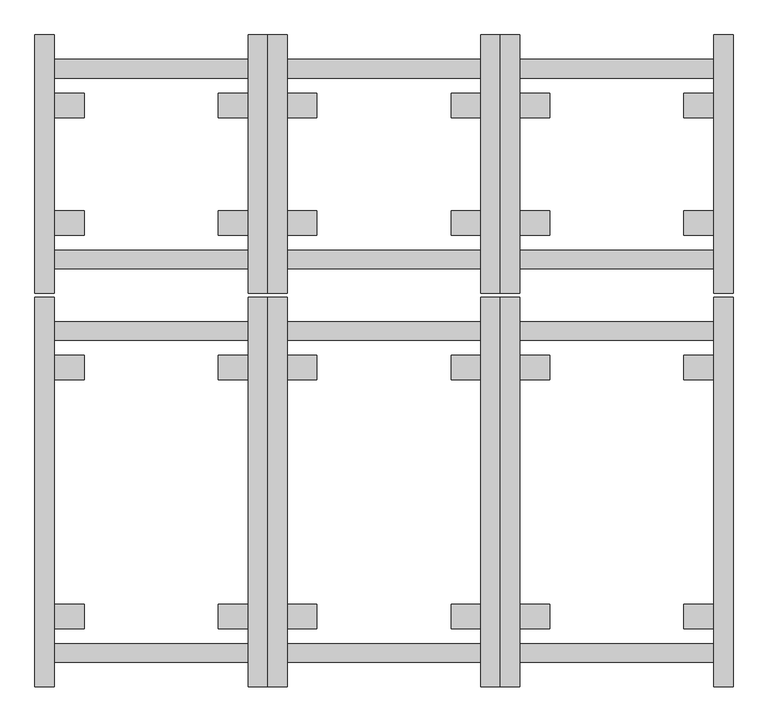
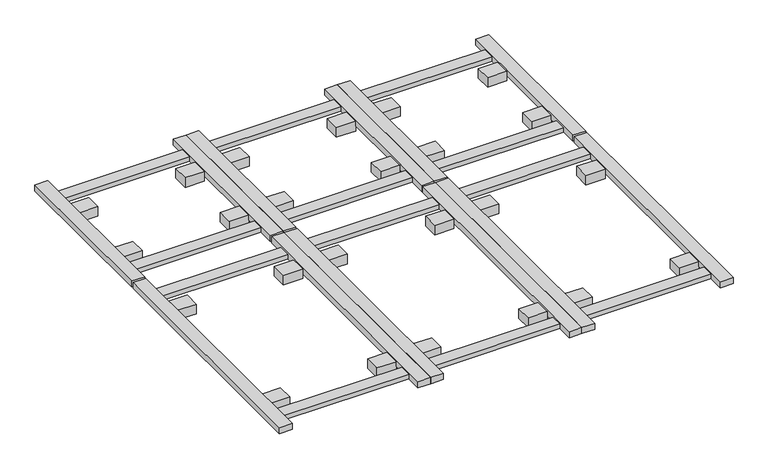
"""IFC4 building model written with IfcOpenShell, lengths in millimetres: proxy geometry, Video_Wall_Mount-Chief-TIL_Series-LG_Leyard : Video Wall for LG and Leyard."""

from ifc_helpers import new_model, si_unit, frame, origin, origin_with_axes, place, context, project, spatial, polyline, outline, extrude, source, transform, mapped, element, save


def specialty_equipment_51c90836(model_context):
    return source(origin(), model_context, "Body", "SweptSolid", [
        extrude(outline(polyline([(429.768, 14.478), (429.768, -49.022), (352.806, -49.022), (352.806, 14.478), (429.768, 14.478)])), origin_with_axes(), (0.0, 0.0, 1.0), 40.386),
        extrude(outline(polyline([(855.218, 14.478), (855.218, -49.022), (778.256, -49.022), (778.256, 14.478), (855.218, 14.478)])), origin_with_axes(), (0.0, 0.0, 1.0), 40.386),
        extrude(outline(polyline([(429.768, -631.444), (429.768, -694.944), (352.806, -694.944), (352.806, -631.444), (429.768, -631.444)])), origin_with_axes(), (0.0, 0.0, 1.0), 40.386),
        extrude(outline(polyline([(855.218, -631.444), (855.218, -694.944), (778.256, -694.944), (778.256, -631.444), (855.218, -631.444)])), origin_with_axes(), (0.0, 0.0, 1.0), 40.386),
        extrude(outline(polyline([(855.218, 101.6), (855.218, 53.34), (352.806, 53.34), (352.806, 101.6), (855.218, 101.6)])), frame((0.0, 0.0, 21.336), z_axis=(0.0, 0.0, 1.0), x_axis=(1.0, 0.0, 0.0)), (0.0, 0.0, 1.0), 19.05),
        extrude(outline(polyline([(855.218, -733.806), (855.218, -782.066), (352.806, -782.066), (352.806, -733.806), (855.218, -733.806)])), frame((0.0, 0.0, 21.336), z_axis=(0.0, 0.0, 1.0), x_axis=(1.0, 0.0, 0.0)), (0.0, 0.0, 1.0), 19.05),
        extrude(outline(polyline([(906.018, 165.354), (906.018, -845.82), (855.218, -845.82), (855.218, 165.354), (906.018, 165.354)])), frame((0.0, 0.0, 21.336), z_axis=(0.0, 0.0, 1.0), x_axis=(1.0, 0.0, 0.0)), (0.0, 0.0, 1.0), 25.4),
        extrude(outline(polyline([(352.806, 165.354), (352.806, -845.82), (302.006, -845.82), (302.006, 165.354), (352.806, 165.354)])), frame((0.0, 0.0, 21.336), z_axis=(0.0, 0.0, 1.0), x_axis=(1.0, 0.0, 0.0)), (0.0, 0.0, 1.0), 25.4),
        extrude(outline(polyline([(-174.244, 14.478), (-174.244, -49.022), (-251.206, -49.022), (-251.206, 14.478), (-174.244, 14.478)])), origin_with_axes(), (0.0, 0.0, 1.0), 40.386),
        extrude(outline(polyline([(251.206, 14.478), (251.206, -49.022), (174.244, -49.022), (174.244, 14.478), (251.206, 14.478)])), origin_with_axes(), (0.0, 0.0, 1.0), 40.386),
        extrude(outline(polyline([(-174.244, -631.444), (-174.244, -694.944), (-251.206, -694.944), (-251.206, -631.444), (-174.244, -631.444)])), origin_with_axes(), (0.0, 0.0, 1.0), 40.386),
        extrude(outline(polyline([(251.206, -631.444), (251.206, -694.944), (174.244, -694.944), (174.244, -631.444), (251.206, -631.444)])), origin_with_axes(), (0.0, 0.0, 1.0), 40.386),
        extrude(outline(polyline([(251.206, 101.6), (251.206, 53.34), (-251.206, 53.34), (-251.206, 101.6), (251.206, 101.6)])), frame((0.0, 0.0, 21.336), z_axis=(0.0, 0.0, 1.0), x_axis=(1.0, 0.0, 0.0)), (0.0, 0.0, 1.0), 19.05),
        extrude(outline(polyline([(251.206, -733.806), (251.206, -782.066), (-251.206, -782.066), (-251.206, -733.806), (251.206, -733.806)])), frame((0.0, 0.0, 21.336), z_axis=(0.0, 0.0, 1.0), x_axis=(1.0, 0.0, 0.0)), (0.0, 0.0, 1.0), 19.05),
        extrude(outline(polyline([(302.006, 165.354), (302.006, -845.82), (251.206, -845.82), (251.206, 165.354), (302.006, 165.354)])), frame((0.0, 0.0, 21.336), z_axis=(0.0, 0.0, 1.0), x_axis=(1.0, 0.0, 0.0)), (0.0, 0.0, 1.0), 25.4),
        extrude(outline(polyline([(-251.206, 165.354), (-251.206, -845.82), (-302.006, -845.82), (-302.006, 165.354), (-251.206, 165.354)])), frame((0.0, 0.0, 21.336), z_axis=(0.0, 0.0, 1.0), x_axis=(1.0, 0.0, 0.0)), (0.0, 0.0, 1.0), 25.4),
        extrude(outline(polyline([(-778.256, 14.478), (-778.256, -49.022), (-855.218, -49.022), (-855.218, 14.478), (-778.256, 14.478)])), origin_with_axes(), (0.0, 0.0, 1.0), 40.386),
        extrude(outline(polyline([(-352.806, 14.478), (-352.806, -49.022), (-429.768, -49.022), (-429.768, 14.478), (-352.806, 14.478)])), origin_with_axes(), (0.0, 0.0, 1.0), 40.386),
        extrude(outline(polyline([(-778.256, -631.444), (-778.256, -694.944), (-855.218, -694.944), (-855.218, -631.444), (-778.256, -631.444)])), origin_with_axes(), (0.0, 0.0, 1.0), 40.386),
        extrude(outline(polyline([(-352.806, -631.444), (-352.806, -694.944), (-429.768, -694.944), (-429.768, -631.444), (-352.806, -631.444)])), origin_with_axes(), (0.0, 0.0, 1.0), 40.386),
        extrude(outline(polyline([(-352.806, 101.6), (-352.806, 53.34), (-855.218, 53.34), (-855.218, 101.6), (-352.806, 101.6)])), frame((0.0, 0.0, 21.336), z_axis=(0.0, 0.0, 1.0), x_axis=(1.0, 0.0, 0.0)), (0.0, 0.0, 1.0), 19.05),
        extrude(outline(polyline([(-352.806, -733.806), (-352.806, -782.066), (-855.218, -782.066), (-855.218, -733.806), (-352.806, -733.806)])), frame((0.0, 0.0, 21.336), z_axis=(0.0, 0.0, 1.0), x_axis=(1.0, 0.0, 0.0)), (0.0, 0.0, 1.0), 19.05),
        extrude(outline(polyline([(-302.006, 165.354), (-302.006, -845.82), (-352.806, -845.82), (-352.806, 165.354), (-302.006, 165.354)])), frame((0.0, 0.0, 21.336), z_axis=(0.0, 0.0, 1.0), x_axis=(1.0, 0.0, 0.0)), (0.0, 0.0, 1.0), 25.4),
        extrude(outline(polyline([(-855.218, 165.354), (-855.218, -845.82), (-906.018, -845.82), (-906.018, 165.354), (-855.218, 165.354)])), frame((0.0, 0.0, 21.336), z_axis=(0.0, 0.0, 1.0), x_axis=(1.0, 0.0, 0.0)), (0.0, 0.0, 1.0), 25.4),
        extrude(outline(polyline([(429.768, 694.944), (429.768, 631.444), (352.806, 631.444), (352.806, 694.944), (429.768, 694.944)])), origin_with_axes(), (0.0, 0.0, 1.0), 40.386),
        extrude(outline(polyline([(855.218, 694.944), (855.218, 631.444), (778.256, 631.444), (778.256, 694.944), (855.218, 694.944)])), origin_with_axes(), (0.0, 0.0, 1.0), 40.386),
        extrude(outline(polyline([(429.768, 389.382), (429.768, 325.882), (352.806, 325.882), (352.806, 389.382), (429.768, 389.382)])), origin_with_axes(), (0.0, 0.0, 1.0), 40.386),
        extrude(outline(polyline([(855.218, 389.382), (855.218, 325.882), (778.256, 325.882), (778.256, 389.382), (855.218, 389.382)])), origin_with_axes(), (0.0, 0.0, 1.0), 40.386),
        extrude(outline(polyline([(855.218, 782.066), (855.218, 733.806), (352.806, 733.806), (352.806, 782.066), (855.218, 782.066)])), frame((0.0, 0.0, 21.336), z_axis=(0.0, 0.0, 1.0), x_axis=(1.0, 0.0, 0.0)), (0.0, 0.0, 1.0), 19.05),
        extrude(outline(polyline([(855.218, 287.02), (855.218, 238.76), (352.806, 238.76), (352.806, 287.02), (855.218, 287.02)])), frame((0.0, 0.0, 21.336), z_axis=(0.0, 0.0, 1.0), x_axis=(1.0, 0.0, 0.0)), (0.0, 0.0, 1.0), 19.05),
        extrude(outline(polyline([(906.018, 845.82), (906.018, 175.006), (855.218, 175.006), (855.218, 845.82), (906.018, 845.82)])), frame((0.0, 0.0, 21.336), z_axis=(0.0, 0.0, 1.0), x_axis=(1.0, 0.0, 0.0)), (0.0, 0.0, 1.0), 25.4),
        extrude(outline(polyline([(352.806, 845.82), (352.806, 175.006), (302.006, 175.006), (302.006, 845.82), (352.806, 845.82)])), frame((0.0, 0.0, 21.336), z_axis=(0.0, 0.0, 1.0), x_axis=(1.0, 0.0, 0.0)), (0.0, 0.0, 1.0), 25.4),
        extrude(outline(polyline([(-174.244, 694.944), (-174.244, 631.444), (-251.206, 631.444), (-251.206, 694.944), (-174.244, 694.944)])), origin_with_axes(), (0.0, 0.0, 1.0), 40.386),
        extrude(outline(polyline([(251.206, 694.944), (251.206, 631.444), (174.244, 631.444), (174.244, 694.944), (251.206, 694.944)])), origin_with_axes(), (0.0, 0.0, 1.0), 40.386),
        extrude(outline(polyline([(-174.244, 389.382), (-174.244, 325.882), (-251.206, 325.882), (-251.206, 389.382), (-174.244, 389.382)])), origin_with_axes(), (0.0, 0.0, 1.0), 40.386),
        extrude(outline(polyline([(251.206, 389.382), (251.206, 325.882), (174.244, 325.882), (174.244, 389.382), (251.206, 389.382)])), origin_with_axes(), (0.0, 0.0, 1.0), 40.386),
        extrude(outline(polyline([(251.206, 782.066), (251.206, 733.806), (-251.206, 733.806), (-251.206, 782.066), (251.206, 782.066)])), frame((0.0, 0.0, 21.336), z_axis=(0.0, 0.0, 1.0), x_axis=(1.0, 0.0, 0.0)), (0.0, 0.0, 1.0), 19.05),
        extrude(outline(polyline([(251.206, 287.02), (251.206, 238.76), (-251.206, 238.76), (-251.206, 287.02), (251.206, 287.02)])), frame((0.0, 0.0, 21.336), z_axis=(0.0, 0.0, 1.0), x_axis=(1.0, 0.0, 0.0)), (0.0, 0.0, 1.0), 19.05),
        extrude(outline(polyline([(302.006, 845.82), (302.006, 175.006), (251.206, 175.006), (251.206, 845.82), (302.006, 845.82)])), frame((0.0, 0.0, 21.336), z_axis=(0.0, 0.0, 1.0), x_axis=(1.0, 0.0, 0.0)), (0.0, 0.0, 1.0), 25.4),
        extrude(outline(polyline([(-251.206, 845.82), (-251.206, 175.006), (-302.006, 175.006), (-302.006, 845.82), (-251.206, 845.82)])), frame((0.0, 0.0, 21.336), z_axis=(0.0, 0.0, 1.0), x_axis=(1.0, 0.0, 0.0)), (0.0, 0.0, 1.0), 25.4),
        extrude(outline(polyline([(-778.256, 694.944), (-778.256, 631.444), (-855.218, 631.444), (-855.218, 694.944), (-778.256, 694.944)])), origin_with_axes(), (0.0, 0.0, 1.0), 40.386),
        extrude(outline(polyline([(-352.806, 694.944), (-352.806, 631.444), (-429.768, 631.444), (-429.768, 694.944), (-352.806, 694.944)])), origin_with_axes(), (0.0, 0.0, 1.0), 40.386),
        extrude(outline(polyline([(-778.256, 389.382), (-778.256, 325.882), (-855.218, 325.882), (-855.218, 389.382), (-778.256, 389.382)])), origin_with_axes(), (0.0, 0.0, 1.0), 40.386),
        extrude(outline(polyline([(-352.806, 389.382), (-352.806, 325.882), (-429.768, 325.882), (-429.768, 389.382), (-352.806, 389.382)])), origin_with_axes(), (0.0, 0.0, 1.0), 40.386),
        extrude(outline(polyline([(-352.806, 782.066), (-352.806, 733.806), (-855.218, 733.806), (-855.218, 782.066), (-352.806, 782.066)])), frame((0.0, 0.0, 21.336), z_axis=(0.0, 0.0, 1.0), x_axis=(1.0, 0.0, 0.0)), (0.0, 0.0, 1.0), 19.05),
        extrude(outline(polyline([(-352.806, 287.02), (-352.806, 238.76), (-855.218, 238.76), (-855.218, 287.02), (-352.806, 287.02)])), frame((0.0, 0.0, 21.336), z_axis=(0.0, 0.0, 1.0), x_axis=(1.0, 0.0, 0.0)), (0.0, 0.0, 1.0), 19.05),
        extrude(outline(polyline([(-302.006, 845.82), (-302.006, 175.006), (-352.806, 175.006), (-352.806, 845.82), (-302.006, 845.82)])), frame((0.0, 0.0, 21.336), z_axis=(0.0, 0.0, 1.0), x_axis=(1.0, 0.0, 0.0)), (0.0, 0.0, 1.0), 25.4),
        extrude(outline(polyline([(-855.218, 845.82), (-855.218, 175.006), (-906.018, 175.006), (-906.018, 845.82), (-855.218, 845.82)])), frame((0.0, 0.0, 21.336), z_axis=(0.0, 0.0, 1.0), x_axis=(1.0, 0.0, 0.0)), (0.0, 0.0, 1.0), 25.4),
    ])


if __name__ == "__main__":
    model = new_model("IFC4")
    model_context = context("Model", 3, world=origin())
    ifc_project = project(units=[si_unit("LENGTHUNIT", "METRE", prefix="MILLI")], contexts=[model_context])
    site = spatial("IfcSite", under=ifc_project)
    building = spatial("IfcBuilding", under=site)
    placement = place(None, origin())
    specialty_equipment_shape = specialty_equipment_51c90836(model_context)
    element("IfcBuildingElementProxy", 1, Name="Video_Wall_Mount-Chief-TIL_Series-LG_Leyard : Video Wall for LG and Leyard", ObjectType="Video_Wall_Mount-Chief-TIL_Series-LG_Leyard : Video Wall for LG and Leyard", at=placement, inside=building, context=model_context, shape_type="MappedRepresentation", body=[
        mapped(specialty_equipment_shape, transform((0.0, 0.0, 0.0), x_axis=(1.0, 0.0, 0.0), y_axis=(0.0, 1.0, 0.0), z_axis=(0.0, 0.0, 1.0))),
    ])
    save(model, "model.ifc")
